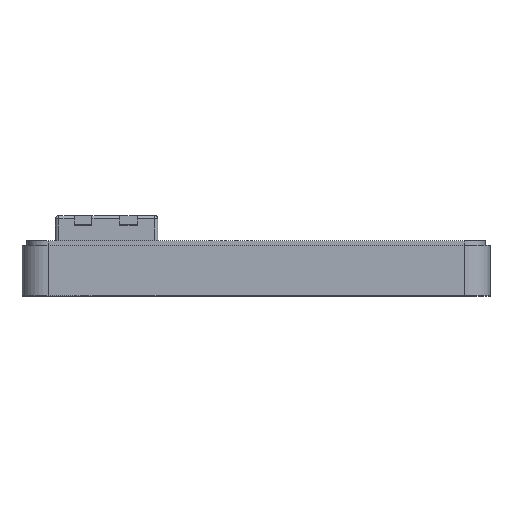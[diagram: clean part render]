
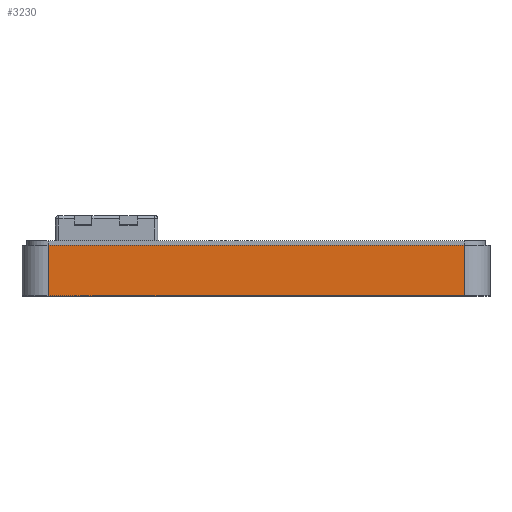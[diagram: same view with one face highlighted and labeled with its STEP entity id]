
A CAD part, top view. The second image highlights one B-rep face of the part: STEP entity #3230.
In plain terms, the highlighted planar face has unit normal (0, 0, 1).
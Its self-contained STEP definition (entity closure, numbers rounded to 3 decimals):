
#118 = VECTOR ( 'NONE', #4475, 1000. ) ;
#624 = VECTOR ( 'NONE', #6140, 1000. ) ;
#861 = VERTEX_POINT ( 'NONE', #3671 ) ;
#1183 = CARTESIAN_POINT ( 'NONE',  ( -72., 17., 44.9 ) ) ;
#1985 = PLANE ( 'NONE',  #2136 ) ;
#2136 = AXIS2_PLACEMENT_3D ( 'NONE', #1183, #10135, #5300 ) ;
#2148 = LINE ( 'NONE', #10141, #7964 ) ;
#2615 = CARTESIAN_POINT ( 'NONE',  ( -64., 15.5, 44.9 ) ) ;
#3015 = LINE ( 'NONE', #5297, #624 ) ;
#3050 = FACE_OUTER_BOUND ( 'NONE', #4178, .T. ) ;
#3230 = ADVANCED_FACE ( 'NONE', ( #3050 ), #1985, .F. ) ;
#3239 = EDGE_CURVE ( 'NONE', #5804, #7973, #8847, .T. ) ;
#3671 = CARTESIAN_POINT ( 'NONE',  ( -64., 0., 44.9 ) ) ;
#4178 = EDGE_LOOP ( 'NONE', ( #8401, #8128, #9056, #7918 ) ) ;
#4375 = CARTESIAN_POINT ( 'NONE',  ( 64., 0., 44.9 ) ) ;
#4475 = DIRECTION ( 'NONE',  ( 0., -1., 0. ) ) ;
#4478 = DIRECTION ( 'NONE',  ( 1., 0., 0. ) ) ;
#4716 = EDGE_CURVE ( 'NONE', #861, #8533, #2148, .T. ) ;
#5063 = EDGE_CURVE ( 'NONE', #8533, #7973, #3015, .T. ) ;
#5106 = EDGE_CURVE ( 'NONE', #5804, #861, #9544, .T. ) ;
#5297 = CARTESIAN_POINT ( 'NONE',  ( 64., 17., 44.9 ) ) ;
#5300 = DIRECTION ( 'NONE',  ( -1., 0., 0. ) ) ;
#5509 = CARTESIAN_POINT ( 'NONE',  ( 64., 15.5, 44.9 ) ) ;
#5804 = VERTEX_POINT ( 'NONE', #2615 ) ;
#6140 = DIRECTION ( 'NONE',  ( 0., 1., 0. ) ) ;
#6702 = VECTOR ( 'NONE', #4478, 1000. ) ;
#7780 = DIRECTION ( 'NONE',  ( 1., 0., 0. ) ) ;
#7805 = CARTESIAN_POINT ( 'NONE',  ( -72., 15.5, 44.9 ) ) ;
#7918 = ORIENTED_EDGE ( 'NONE', *, *, #5063, .T. ) ;
#7964 = VECTOR ( 'NONE', #7780, 1000. ) ;
#7973 = VERTEX_POINT ( 'NONE', #5509 ) ;
#8128 = ORIENTED_EDGE ( 'NONE', *, *, #5106, .T. ) ;
#8401 = ORIENTED_EDGE ( 'NONE', *, *, #3239, .F. ) ;
#8533 = VERTEX_POINT ( 'NONE', #4375 ) ;
#8847 = LINE ( 'NONE', #7805, #6702 ) ;
#9056 = ORIENTED_EDGE ( 'NONE', *, *, #4716, .T. ) ;
#9544 = LINE ( 'NONE', #10157, #118 ) ;
#10135 = DIRECTION ( 'NONE',  ( 0., 0., -1. ) ) ;
#10141 = CARTESIAN_POINT ( 'NONE',  ( -72., 0., 44.9 ) ) ;
#10157 = CARTESIAN_POINT ( 'NONE',  ( -64., 17., 44.9 ) ) ;
